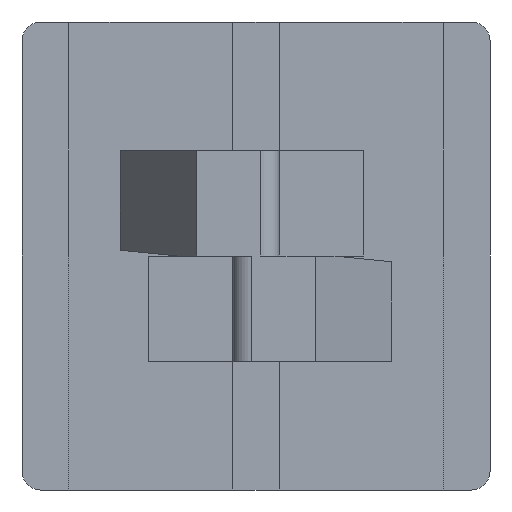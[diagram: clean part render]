
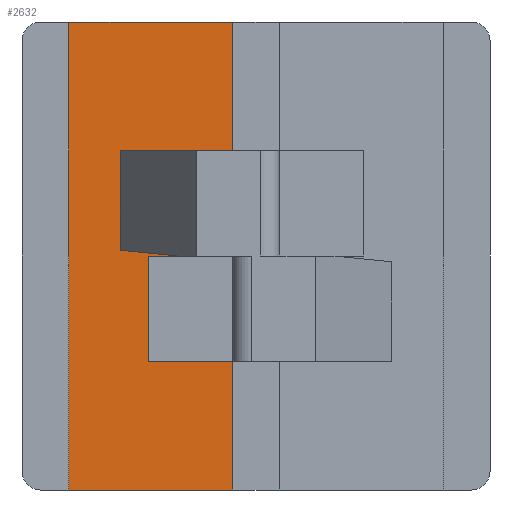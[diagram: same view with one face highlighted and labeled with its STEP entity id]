
A CAD part, front view. The second image highlights one B-rep face of the part: STEP entity #2632.
In plain terms, the highlighted planar face has unit normal (0, -1, 0).
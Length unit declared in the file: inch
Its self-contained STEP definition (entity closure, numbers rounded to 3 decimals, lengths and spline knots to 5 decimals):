
#102=PLANE('',#2940);
#147=LINE('',#3973,#355);
#242=LINE('',#4956,#450);
#250=LINE('',#4977,#458);
#262=LINE('',#4998,#470);
#274=LINE('',#5022,#482);
#275=LINE('',#5024,#483);
#276=LINE('',#5025,#484);
#277=LINE('',#5026,#485);
#355=VECTOR('',#3041,0.3937);
#450=VECTOR('',#3578,0.3937);
#458=VECTOR('',#3594,0.3937);
#470=VECTOR('',#3610,0.3937);
#482=VECTOR('',#3636,0.3937);
#483=VECTOR('',#3637,0.3937);
#484=VECTOR('',#3638,0.3937);
#485=VECTOR('',#3639,0.3937);
#726=FACE_OUTER_BOUND('',#893,.T.);
#893=EDGE_LOOP('',(#2241,#2242,#2243,#2244,#2245,#2246,#2247,#2248));
#1111=VERTEX_POINT('',#3970);
#1112=VERTEX_POINT('',#3972);
#1260=VERTEX_POINT('',#4952);
#1262=VERTEX_POINT('',#4955);
#1270=VERTEX_POINT('',#4974);
#1271=VERTEX_POINT('',#4976);
#1283=VERTEX_POINT('',#5021);
#1284=VERTEX_POINT('',#5023);
#1347=EDGE_CURVE('',#1111,#1112,#147,.T.);
#1599=EDGE_CURVE('',#1262,#1260,#242,.T.);
#1609=EDGE_CURVE('',#1271,#1270,#250,.T.);
#1621=EDGE_CURVE('',#1270,#1262,#262,.T.);
#1633=EDGE_CURVE('',#1260,#1283,#274,.T.);
#1634=EDGE_CURVE('',#1284,#1283,#275,.T.);
#1635=EDGE_CURVE('',#1112,#1284,#276,.T.);
#1636=EDGE_CURVE('',#1111,#1271,#277,.T.);
#2241=ORIENTED_EDGE('',*,*,#1609,.T.);
#2242=ORIENTED_EDGE('',*,*,#1621,.T.);
#2243=ORIENTED_EDGE('',*,*,#1599,.T.);
#2244=ORIENTED_EDGE('',*,*,#1633,.T.);
#2245=ORIENTED_EDGE('',*,*,#1634,.F.);
#2246=ORIENTED_EDGE('',*,*,#1635,.F.);
#2247=ORIENTED_EDGE('',*,*,#1347,.F.);
#2248=ORIENTED_EDGE('',*,*,#1636,.T.);
#2632=ADVANCED_FACE('',(#726),#102,.T.);
#2940=AXIS2_PLACEMENT_3D('',#5020,#3634,#3635);
#3041=DIRECTION('',(-1.,0.,0.));
#3578=DIRECTION('',(1.,0.,0.));
#3594=DIRECTION('',(-1.,0.,0.));
#3610=DIRECTION('',(0.,0.,1.));
#3634=DIRECTION('center_axis',(0.,-1.,0.));
#3635=DIRECTION('ref_axis',(1.,0.,0.));
#3636=DIRECTION('',(0.,0.,1.));
#3637=DIRECTION('',(1.,0.,0.));
#3638=DIRECTION('',(0.,0.,1.));
#3639=DIRECTION('',(0.,0.,1.));
#3970=CARTESIAN_POINT('',(-0.03906,-0.39063,-0.39063));
#3972=CARTESIAN_POINT('',(-0.3125,-0.39063,-0.39063));
#3973=CARTESIAN_POINT('',(0.39063,-0.39063,-0.39063));
#4952=CARTESIAN_POINT('',(-0.03906,-0.39063,0.));
#4955=CARTESIAN_POINT('',(-0.17969,-0.39063,0.));
#4956=CARTESIAN_POINT('',(-0.21094,-0.39063,0.));
#4974=CARTESIAN_POINT('',(-0.17969,-0.39063,-0.17578));
#4976=CARTESIAN_POINT('',(-0.03906,-0.39063,-0.17578));
#4977=CARTESIAN_POINT('',(-0.14452,-0.39063,-0.17578));
#4998=CARTESIAN_POINT('',(-0.17969,-0.39063,0.));
#5020=CARTESIAN_POINT('Origin',(-0.3125,-0.39063,0.));
#5021=CARTESIAN_POINT('',(-0.03906,-0.39063,0.39063));
#5022=CARTESIAN_POINT('',(-0.03906,-0.39063,0.));
#5023=CARTESIAN_POINT('',(-0.3125,-0.39063,0.39063));
#5024=CARTESIAN_POINT('',(0.39063,-0.39063,0.39063));
#5025=CARTESIAN_POINT('',(-0.3125,-0.39063,0.));
#5026=CARTESIAN_POINT('',(-0.03906,-0.39063,0.));
